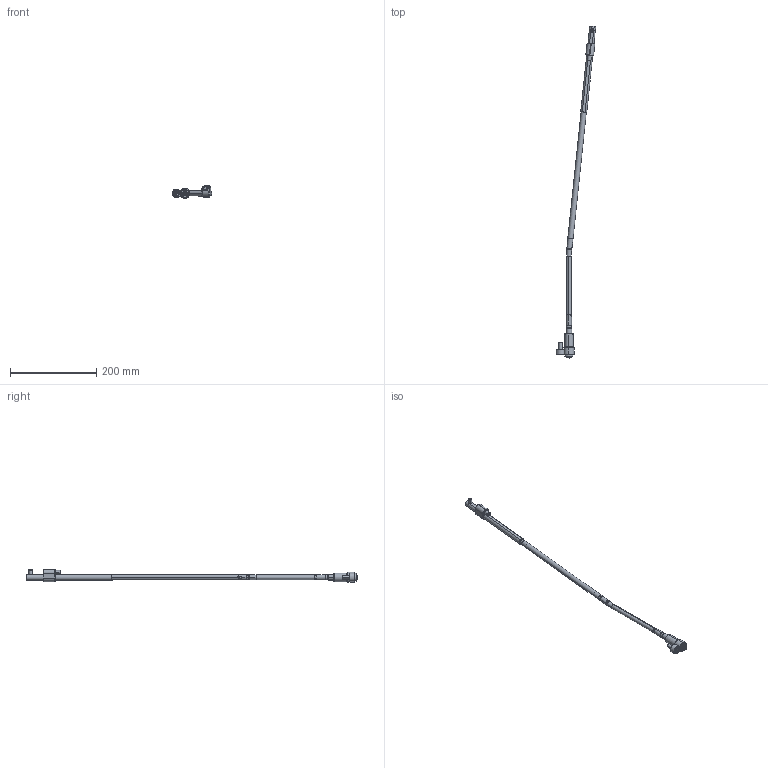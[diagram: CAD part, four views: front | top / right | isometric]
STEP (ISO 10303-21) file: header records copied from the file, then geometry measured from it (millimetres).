
FILE_DESCRIPTION (( 'STEP AP214' ), '1' );
FILE_NAME ('WL120125-INJ 6°.STEP', '2021-03-19T15:40:44', ( '' ), ( '' ), 'SwSTEP 2.0', 'SolidWorks 2019', '' );
FILE_SCHEMA (( 'AUTOMOTIVE_DESIGN' ));
Length unit declared in the file: millimetre
Products named in the file (17): WL120100-D; WL120100-B; 1DIN912820_DIN 912 M8 x 20 --- 20C; WL120100-E; Web-WL12-A2; Web-WL12-F00.SLDPRT; 3IMAN5X3-150_con sellador; Web-WL12-A3; 1DIN912645_DIN 912 M6 x 45 --- 45C; 8WL12EJEP; Web-WL12-A1; Web-WL12-F01; Web-WL12-A8; 9DR2808-TOR; WL120100-B1; WL120125-INJ 6°; Web-WL12-XX_OFF-WL120125-6
Assembly tree (16 placements, depth 3):
  WL120125-INJ 6°
    Web-WL12-A8
    Web-WL12-XX_OFF-WL120125-6
    Web-WL12-A3
    Web-WL12-A2
    Web-WL12-A1
    Web-WL12-F00.SLDPRT
      Web-WL12-F01
      1DIN912820_DIN 912 M8 x 20 --- 20C
      1DIN912645_DIN 912 M6 x 45 --- 45C
    WL120100-D
    8WL12EJEP
    WL120100-E
    9DR2808-TOR
    WL120100-B
      WL120100-B1
      3IMAN5X3-150_con sellador
Bounding box: 91.54 x 770.79 x 29.9 mm (x, y, z)
Volume: 116545.5 mm3; surface area: 51028.9 mm2
Topology: 15 solids, 15 shells, 432 faces, 906 edges, 525 vertices
Faces by surface type: plane 139, cylinder 123, cone 120, torus 50
Entity records: 13661 total; most frequent: DIRECTION 2240, CARTESIAN_POINT 2104, ORIENTED_EDGE 1788, AXIS2_PLACEMENT_3D 929, EDGE_CURVE 894, VERTEX_POINT 525, EDGE_LOOP 477, CIRCLE 476
